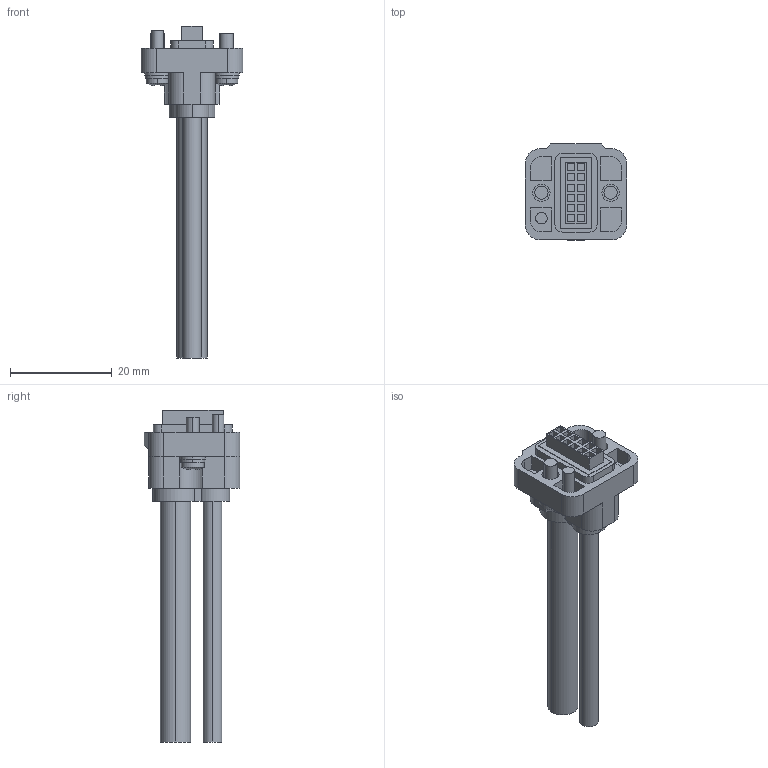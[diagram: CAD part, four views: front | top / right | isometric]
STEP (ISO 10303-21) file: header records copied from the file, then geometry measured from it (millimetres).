
FILE_DESCRIPTION (( 'STEP AP203' ), '1' );
FILE_NAME ('cn-8e-c2.STEP', '2024-01-16T06:07:16', ( '' ), ( '' ), 'SwSTEP 2.0', 'SolidWorks 2022', '' );
FILE_SCHEMA (( 'CONFIG_CONTROL_DESIGN' ));
Length unit declared in the file: millimetre
Products named in the file (1): cn-8e-c2
Bounding box: 20 x 18.9 x 65.4 mm (x, y, z)
Volume: 4979.4 mm3; surface area: 3887.1 mm2
Topology: 1 solids, 1 shells, 203 faces, 500 edges, 332 vertices
Faces by surface type: plane 151, cylinder 48, torus 4
Entity records: 6067 total; most frequent: CARTESIAN_POINT 1120, ORIENTED_EDGE 1000, DIRECTION 980, EDGE_CURVE 500, LINE 372, VECTOR 372, VERTEX_POINT 332, AXIS2_PLACEMENT_3D 304
